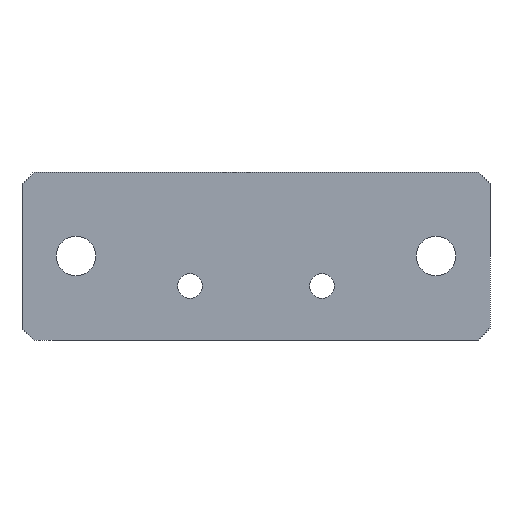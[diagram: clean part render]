
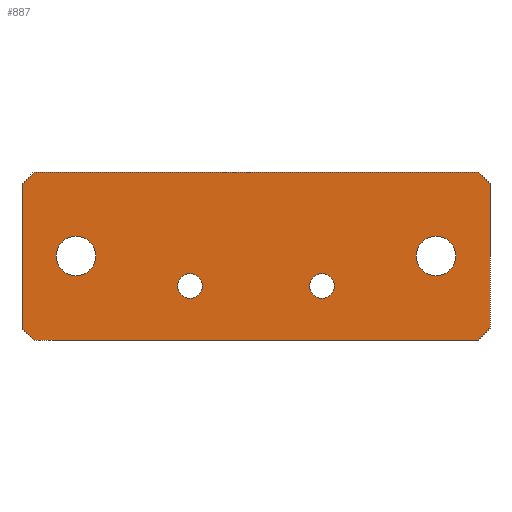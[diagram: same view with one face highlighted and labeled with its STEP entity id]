
A CAD part, front view. The second image highlights one B-rep face of the part: STEP entity #887.
In plain terms, the highlighted planar face has unit normal (0, -1, 0).
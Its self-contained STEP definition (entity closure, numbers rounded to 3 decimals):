
#3 = VECTOR ( 'NONE', #864, 1000. ) ;
#4 = ORIENTED_EDGE ( 'NONE', *, *, #929, .T. ) ;
#17 = CIRCLE ( 'NONE', #620, 2.067 ) ;
#20 = DIRECTION ( 'NONE',  ( 0., 0., 1. ) ) ;
#24 = VECTOR ( 'NONE', #438, 1000. ) ;
#25 = EDGE_CURVE ( 'NONE', #206, #655, #824, .T. ) ;
#38 = VERTEX_POINT ( 'NONE', #863 ) ;
#42 = EDGE_CURVE ( 'NONE', #613, #637, #17, .T. ) ;
#47 = ORIENTED_EDGE ( 'NONE', *, *, #110, .F. ) ;
#55 = AXIS2_PLACEMENT_3D ( 'NONE', #282, #748, #156 ) ;
#59 = ORIENTED_EDGE ( 'NONE', *, *, #289, .T. ) ;
#73 = VERTEX_POINT ( 'NONE', #180 ) ;
#74 = ORIENTED_EDGE ( 'NONE', *, *, #320, .T. ) ;
#85 = CARTESIAN_POINT ( 'NONE',  ( 11., 0., -5. ) ) ;
#89 = CARTESIAN_POINT ( 'NONE',  ( 37., 0., -14. ) ) ;
#90 = AXIS2_PLACEMENT_3D ( 'NONE', #854, #315, #782 ) ;
#94 = VECTOR ( 'NONE', #593, 1000. ) ;
#100 = CARTESIAN_POINT ( 'NONE',  ( 11., 0., -7.067 ) ) ;
#103 = VERTEX_POINT ( 'NONE', #100 ) ;
#108 = VECTOR ( 'NONE', #970, 1000. ) ;
#110 = EDGE_CURVE ( 'NONE', #73, #352, #533, .T. ) ;
#114 = EDGE_CURVE ( 'NONE', #396, #352, #240, .T. ) ;
#116 = CARTESIAN_POINT ( 'NONE',  ( -11., 0., -7.067 ) ) ;
#128 = CARTESIAN_POINT ( 'NONE',  ( 30., 0., 0. ) ) ;
#156 = DIRECTION ( 'NONE',  ( 0., 0., 1. ) ) ;
#162 = CIRCLE ( 'NONE', #55, 3.3 ) ;
#168 = DIRECTION ( 'NONE',  ( 0., 1., 0. ) ) ;
#180 = CARTESIAN_POINT ( 'NONE',  ( -37., 0., 14. ) ) ;
#183 = DIRECTION ( 'NONE',  ( 0., 0., 1. ) ) ;
#184 = ORIENTED_EDGE ( 'NONE', *, *, #570, .F. ) ;
#185 = CIRCLE ( 'NONE', #774, 2.067 ) ;
#190 = DIRECTION ( 'NONE',  ( 0., 0., 1. ) ) ;
#206 = VERTEX_POINT ( 'NONE', #89 ) ;
#208 = LINE ( 'NONE', #687, #94 ) ;
#214 = LINE ( 'NONE', #838, #24 ) ;
#217 = VERTEX_POINT ( 'NONE', #477 ) ;
#221 = ORIENTED_EDGE ( 'NONE', *, *, #368, .T. ) ;
#224 = AXIS2_PLACEMENT_3D ( 'NONE', #792, #714, #252 ) ;
#227 = LINE ( 'NONE', #598, #610 ) ;
#231 = FACE_OUTER_BOUND ( 'NONE', #405, .T. ) ;
#240 = LINE ( 'NONE', #328, #776 ) ;
#243 = CARTESIAN_POINT ( 'NONE',  ( 37., 0., -14. ) ) ;
#245 = ORIENTED_EDGE ( 'NONE', *, *, #42, .T. ) ;
#252 = DIRECTION ( 'NONE',  ( 0., 0., 1. ) ) ;
#282 = CARTESIAN_POINT ( 'NONE',  ( 30., 0., 0. ) ) ;
#289 = EDGE_CURVE ( 'NONE', #654, #902, #337, .T. ) ;
#299 = ORIENTED_EDGE ( 'NONE', *, *, #950, .T. ) ;
#315 = DIRECTION ( 'NONE',  ( 0., 1., 0. ) ) ;
#320 = EDGE_CURVE ( 'NONE', #103, #764, #486, .T. ) ;
#321 = EDGE_LOOP ( 'NONE', ( #499, #74 ) ) ;
#328 = CARTESIAN_POINT ( 'NONE',  ( 39., 0., 12. ) ) ;
#337 = CIRCLE ( 'NONE', #361, 3.3 ) ;
#352 = VERTEX_POINT ( 'NONE', #615 ) ;
#354 = CARTESIAN_POINT ( 'NONE',  ( -39., 0., -14. ) ) ;
#356 = AXIS2_PLACEMENT_3D ( 'NONE', #404, #852, #190 ) ;
#360 = DIRECTION ( 'NONE',  ( 0., 0., 1. ) ) ;
#361 = AXIS2_PLACEMENT_3D ( 'NONE', #546, #618, #20 ) ;
#368 = EDGE_CURVE ( 'NONE', #902, #654, #370, .T. ) ;
#370 = CIRCLE ( 'NONE', #224, 3.3 ) ;
#373 = DIRECTION ( 'NONE',  ( 0.707, 0., -0.707 ) ) ;
#383 = AXIS2_PLACEMENT_3D ( 'NONE', #128, #661, #890 ) ;
#394 = CARTESIAN_POINT ( 'NONE',  ( 39., 0., 12. ) ) ;
#396 = VERTEX_POINT ( 'NONE', #394 ) ;
#404 = CARTESIAN_POINT ( 'NONE',  ( 0., 0., 0. ) ) ;
#405 = EDGE_LOOP ( 'NONE', ( #605, #427, #184, #962, #721, #818, #47, #299 ) ) ;
#409 = VECTOR ( 'NONE', #616, 1000. ) ;
#422 = CARTESIAN_POINT ( 'NONE',  ( -11., 0., -2.933 ) ) ;
#425 = CARTESIAN_POINT ( 'NONE',  ( -11., 0., -5. ) ) ;
#427 = ORIENTED_EDGE ( 'NONE', *, *, #829, .T. ) ;
#430 = VECTOR ( 'NONE', #980, 1000. ) ;
#432 = VERTEX_POINT ( 'NONE', #976 ) ;
#438 = DIRECTION ( 'NONE',  ( 0., 0., 1. ) ) ;
#450 = CARTESIAN_POINT ( 'NONE',  ( -30., 0., 3.3 ) ) ;
#466 = FACE_BOUND ( 'NONE', #754, .T. ) ;
#472 = CARTESIAN_POINT ( 'NONE',  ( -39., 0., 14. ) ) ;
#474 = DIRECTION ( 'NONE',  ( 0., 0., 1. ) ) ;
#477 = CARTESIAN_POINT ( 'NONE',  ( -39., 0., 12. ) ) ;
#486 = CIRCLE ( 'NONE', #90, 2.067 ) ;
#499 = ORIENTED_EDGE ( 'NONE', *, *, #967, .T. ) ;
#510 = CARTESIAN_POINT ( 'NONE',  ( 11., 0., -2.933 ) ) ;
#533 = LINE ( 'NONE', #472, #3 ) ;
#546 = CARTESIAN_POINT ( 'NONE',  ( -30., 0., 0. ) ) ;
#562 = DIRECTION ( 'NONE',  ( 0., 1., 0. ) ) ;
#570 = EDGE_CURVE ( 'NONE', #206, #935, #904, .T. ) ;
#593 = DIRECTION ( 'NONE',  ( 0., 0., -1. ) ) ;
#597 = CARTESIAN_POINT ( 'NONE',  ( -30., 0., -3.3 ) ) ;
#598 = CARTESIAN_POINT ( 'NONE',  ( -39., 0., -12. ) ) ;
#602 = AXIS2_PLACEMENT_3D ( 'NONE', #85, #168, #183 ) ;
#605 = ORIENTED_EDGE ( 'NONE', *, *, #825, .F. ) ;
#610 = VECTOR ( 'NONE', #373, 1000. ) ;
#612 = CARTESIAN_POINT ( 'NONE',  ( -37., 0., -14. ) ) ;
#613 = VERTEX_POINT ( 'NONE', #422 ) ;
#615 = CARTESIAN_POINT ( 'NONE',  ( 37., 0., 14. ) ) ;
#616 = DIRECTION ( 'NONE',  ( 0.707, 0., 0.707 ) ) ;
#618 = DIRECTION ( 'NONE',  ( 0., 1., 0. ) ) ;
#620 = AXIS2_PLACEMENT_3D ( 'NONE', #787, #562, #474 ) ;
#637 = VERTEX_POINT ( 'NONE', #116 ) ;
#651 = FACE_BOUND ( 'NONE', #779, .T. ) ;
#654 = VERTEX_POINT ( 'NONE', #450 ) ;
#655 = VERTEX_POINT ( 'NONE', #925 ) ;
#661 = DIRECTION ( 'NONE',  ( 0., 1., 0. ) ) ;
#677 = EDGE_CURVE ( 'NONE', #432, #847, #845, .T. ) ;
#687 = CARTESIAN_POINT ( 'NONE',  ( 39., 0., -14. ) ) ;
#714 = DIRECTION ( 'NONE',  ( 0., 1., 0. ) ) ;
#721 = ORIENTED_EDGE ( 'NONE', *, *, #851, .F. ) ;
#731 = PLANE ( 'NONE',  #356 ) ;
#733 = ORIENTED_EDGE ( 'NONE', *, *, #677, .T. ) ;
#748 = DIRECTION ( 'NONE',  ( 0., 1., 0. ) ) ;
#750 = CARTESIAN_POINT ( 'NONE',  ( -37., 0., 14. ) ) ;
#754 = EDGE_LOOP ( 'NONE', ( #59, #221 ) ) ;
#764 = VERTEX_POINT ( 'NONE', #510 ) ;
#774 = AXIS2_PLACEMENT_3D ( 'NONE', #425, #901, #360 ) ;
#776 = VECTOR ( 'NONE', #947, 1000. ) ;
#779 = EDGE_LOOP ( 'NONE', ( #794, #733 ) ) ;
#782 = DIRECTION ( 'NONE',  ( 0., 0., 1. ) ) ;
#787 = CARTESIAN_POINT ( 'NONE',  ( -11., 0., -5. ) ) ;
#792 = CARTESIAN_POINT ( 'NONE',  ( -30., 0., 0. ) ) ;
#794 = ORIENTED_EDGE ( 'NONE', *, *, #933, .T. ) ;
#803 = LINE ( 'NONE', #750, #430 ) ;
#818 = ORIENTED_EDGE ( 'NONE', *, *, #114, .T. ) ;
#824 = LINE ( 'NONE', #243, #409 ) ;
#825 = EDGE_CURVE ( 'NONE', #38, #217, #214, .T. ) ;
#829 = EDGE_CURVE ( 'NONE', #38, #935, #227, .T. ) ;
#838 = CARTESIAN_POINT ( 'NONE',  ( -39., 0., -14. ) ) ;
#845 = CIRCLE ( 'NONE', #383, 3.3 ) ;
#847 = VERTEX_POINT ( 'NONE', #918 ) ;
#848 = CIRCLE ( 'NONE', #602, 2.067 ) ;
#851 = EDGE_CURVE ( 'NONE', #396, #655, #208, .T. ) ;
#852 = DIRECTION ( 'NONE',  ( 0., 1., 0. ) ) ;
#854 = CARTESIAN_POINT ( 'NONE',  ( 11., 0., -5. ) ) ;
#860 = FACE_BOUND ( 'NONE', #321, .T. ) ;
#863 = CARTESIAN_POINT ( 'NONE',  ( -39., 0., -12. ) ) ;
#864 = DIRECTION ( 'NONE',  ( 1., 0., 0. ) ) ;
#883 = EDGE_LOOP ( 'NONE', ( #245, #4 ) ) ;
#886 = FACE_BOUND ( 'NONE', #883, .T. ) ;
#887 = ADVANCED_FACE ( 'NONE', ( #886, #860, #466, #651, #231 ), #731, .F. ) ;
#890 = DIRECTION ( 'NONE',  ( 0., 0., 1. ) ) ;
#901 = DIRECTION ( 'NONE',  ( 0., 1., 0. ) ) ;
#902 = VERTEX_POINT ( 'NONE', #597 ) ;
#904 = LINE ( 'NONE', #354, #108 ) ;
#918 = CARTESIAN_POINT ( 'NONE',  ( 30., 0., 3.3 ) ) ;
#925 = CARTESIAN_POINT ( 'NONE',  ( 39., 0., -12. ) ) ;
#929 = EDGE_CURVE ( 'NONE', #637, #613, #185, .T. ) ;
#933 = EDGE_CURVE ( 'NONE', #847, #432, #162, .T. ) ;
#935 = VERTEX_POINT ( 'NONE', #612 ) ;
#947 = DIRECTION ( 'NONE',  ( -0.707, 0., 0.707 ) ) ;
#950 = EDGE_CURVE ( 'NONE', #73, #217, #803, .T. ) ;
#962 = ORIENTED_EDGE ( 'NONE', *, *, #25, .T. ) ;
#967 = EDGE_CURVE ( 'NONE', #764, #103, #848, .T. ) ;
#970 = DIRECTION ( 'NONE',  ( -1., 0., 0. ) ) ;
#976 = CARTESIAN_POINT ( 'NONE',  ( 30., 0., -3.3 ) ) ;
#980 = DIRECTION ( 'NONE',  ( -0.707, 0., -0.707 ) ) ;
